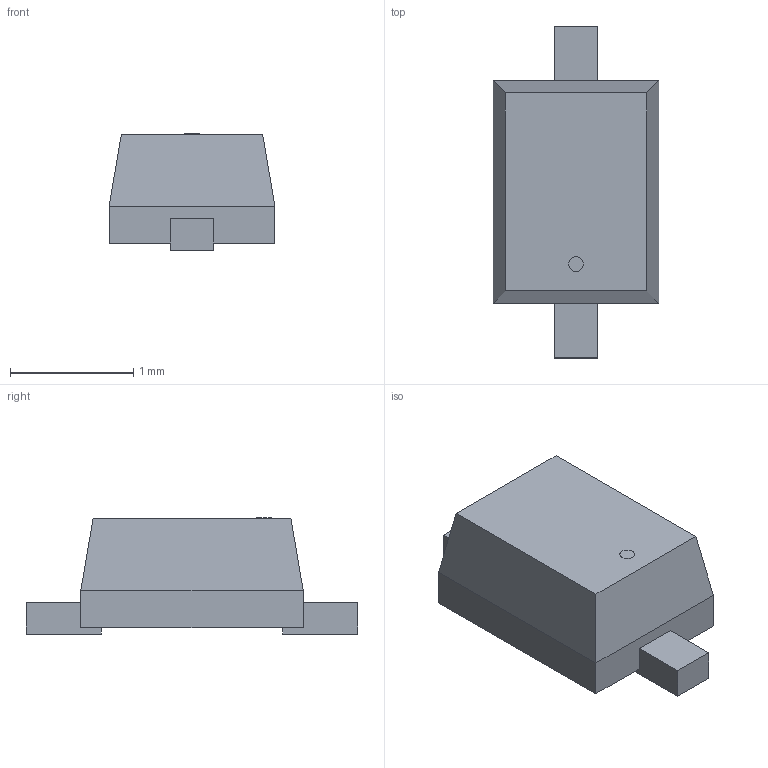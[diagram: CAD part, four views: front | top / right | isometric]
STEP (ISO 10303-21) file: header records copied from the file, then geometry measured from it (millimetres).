
FILE_DESCRIPTION(('STEP AP214'),'1');
FILE_NAME('DIODE_SOT-323F-2_ROM','2021-09-22T01:29:34',(''),(''),'','','');
FILE_SCHEMA(('AUTOMOTIVE_DESIGN'));
Length unit declared in the file: millimetre
Products named in the file (1): product
Bounding box: 1.35 x 2.69 x 0.94 mm (x, y, z)
Volume: 2.1 mm3; surface area: 11.4 mm2
Topology: 4 solids, 4 shells, 29 faces, 59 edges, 38 vertices
Faces by surface type: plane 28, cylinder 1
Full cylindrical faces by diameter (mm): 0.12 x1
Entity records: 760 total; most frequent: DIRECTION 122, ORIENTED_EDGE 116, CARTESIAN_POINT 71, EDGE_CURVE 58, LINE 56, VECTOR 56, VERTEX_POINT 38, AXIS2_PLACEMENT_3D 33
